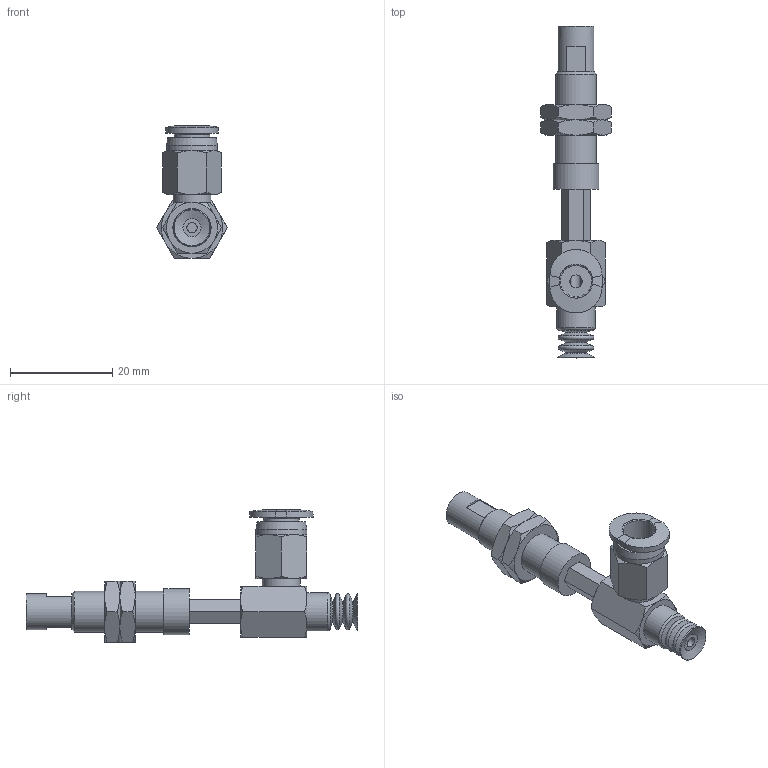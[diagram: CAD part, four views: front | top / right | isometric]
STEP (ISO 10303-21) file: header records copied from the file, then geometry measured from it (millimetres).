
FILE_DESCRIPTION(('STEP AP203'),'1');
FILE_NAME('-O.stp','2025-04-03T07:39:45',(' '),(' '),'Spatial InterOp 3D',' ',' ');
FILE_SCHEMA(('CONFIG_CONTROL_DESIGN'));
Length unit declared in the file: millimetre
Products named in the file (7): BNABPCYH-7-10-※-O; Connector_h-7-10; Nut napc_h-7-10; NAPCTH-7-10-FBODY; NAPCTH-7-10-MBODY; BPCG-7-※; PC-C_06-M5
Assembly tree (7 placements, depth 2):
  BNABPCYH-7-10-※-O
    Connector_h-7-10
    Nut napc_h-7-10  x2
    NAPCTH-7-10-FBODY
    NAPCTH-7-10-MBODY
    BPCG-7-※
    PC-C_06-M5
Bounding box: 13.86 x 65 x 25.98 mm (x, y, z)
Volume: 3448.6 mm3; surface area: 5363.3 mm2
Topology: 6 solids, 9 shells, 197 faces, 412 edges, 247 vertices
Faces by surface type: plane 80, cone 71, cylinder 24, torus 15, bspline 4, revolution 3
Full cylindrical faces by diameter (mm): 2 x2, 4 x4, 4.134 x2, 5 x2, 6 x2, 7 x2, 7.188 x2, 7.4 x1, 7.5 x1, 8 x1, 8.2 x1, 9 x1, 10 x1
Entity records: 5096 total; most frequent: CARTESIAN_POINT 1395, DIRECTION 693, ORIENTED_EDGE 600, EDGE_CURVE 302, AXIS2_PLACEMENT_3D 298, EDGE_LOOP 258, VERTEX_POINT 214, FACE_OUTER_BOUND 150
